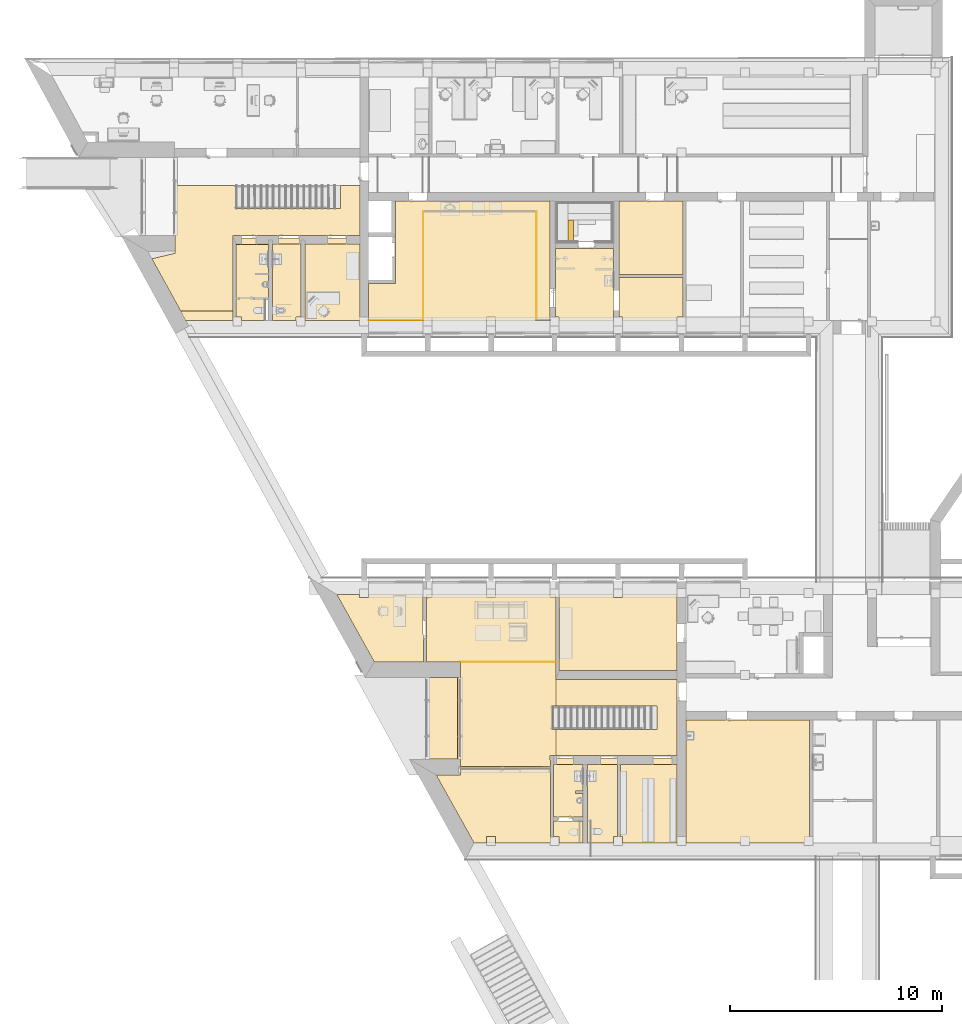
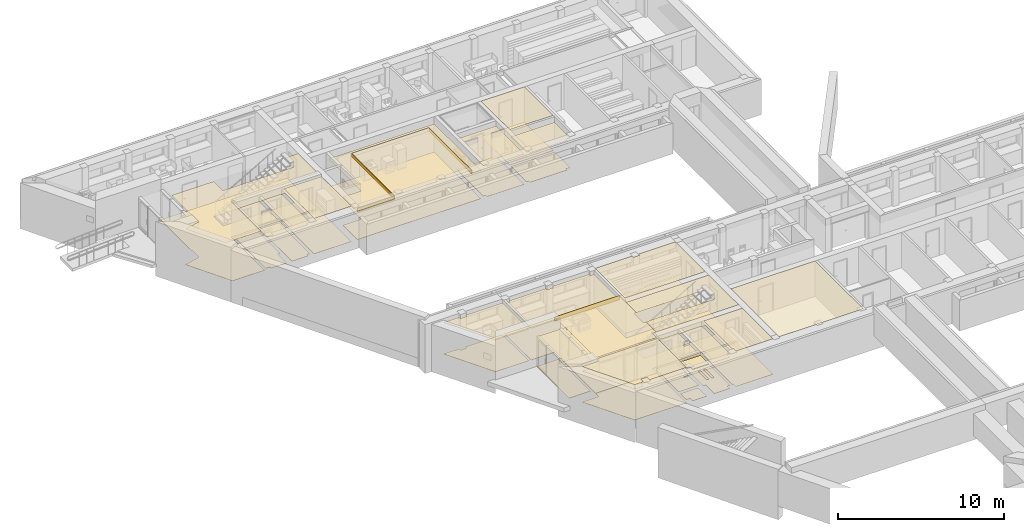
# One storey, part 68 of 127: 46 coverings, 2 openings.
"""IFC2X3 building model written with IfcOpenShell, lengths in millimetres."""

import ifcopenshell
import ifcopenshell.guid

model = None  # the IFC model being written
_history = None  # IfcOwnerHistory: only IFC2X3 demands one
_inside = {}  # id of a spatial element -> (the spatial element, [elements in it])
_under = {}  # id of a project, library or spatial element -> (it, [spatial elements below it])
_declared = {}  # id of a project -> (the project, [libraries it declares])
_typed = {}  # id of a type object -> (the type object, [elements of that type])
_made_of = {}  # id of a material, layer set ... -> (it, [elements and type objects made of it])


def new_model(schema):
    """Start an empty IFC model of exactly this schema.

    Asked for "IFC4X3", IfcOpenShell would pick the latest addendum, in which some entities
    have other attributes; the version numbers below select the first issue.
    IFC2X3 requires an IfcOwnerHistory on every rooted entity: one is made here for all.
    """
    global model, _history
    if schema == "IFC4X3":
        model = ifcopenshell.file(schema_version=(4, 3, 0, 0))
    else:
        model = ifcopenshell.file(schema=schema)
    _inside.clear()
    _under.clear()
    _declared.clear()
    _typed.clear()
    _made_of.clear()
    _history = None
    if model.schema == "IFC2X3":
        org = make("IfcOrganization", Name="unknown")
        user = make(
            "IfcPersonAndOrganization",
            ThePerson=make("IfcPerson", FamilyName="unknown"),
            TheOrganization=org,
        )
        app = make(
            "IfcApplication",
            ApplicationDeveloper=org,
            Version="unknown",
            ApplicationFullName="unknown",
            ApplicationIdentifier="unknown",
        )
        _history = make(
            "IfcOwnerHistory",
            OwningUser=user,
            OwningApplication=app,
            ChangeAction="ADDED",
            CreationDate=0,
        )
    return model


def make(cls, **values):
    """One entity of the class cls with the attributes given. An attribute that is None is left unset."""
    return model.create_entity(
        cls, **{name: value for name, value in values.items() if value is not None}
    )


def entity(cls, *values):
    """Any entity or typed value of the class cls, its attributes in the order of the schema. None: left unset."""
    e = model.create_entity(cls)
    for i, value in enumerate(values):
        if value is not None:
            e[i] = value
    return e


def rooted(cls, **values):
    """An entity with a GlobalId (a new one), such as an element, a storey or a relation."""
    return make(cls, GlobalId=ifcopenshell.guid.new(), OwnerHistory=_history, **values)


def si_unit(unit_type, name, prefix=None):
    """IfcSIUnit, for example si_unit("LENGTHUNIT", "METRE", prefix="MILLI")."""
    return make("IfcSIUnit", UnitType=unit_type, Prefix=prefix, Name=name)


def converted_unit(unit_type, name, factor, base, dimensions=None, offset=None):
    """IfcConversionBasedUnit, such as the inch: factor (a typed value) times the base unit."""
    return make(
        "IfcConversionBasedUnit"
        if offset is None
        else "IfcConversionBasedUnitWithOffset",
        ConversionOffset=offset,
        Dimensions=None
        if dimensions is None
        else entity("IfcDimensionalExponents", *dimensions),
        UnitType=unit_type,
        Name=name,
        ConversionFactor=make(
            "IfcMeasureWithUnit", ValueComponent=factor, UnitComponent=base
        ),
    )


def derived_unit(unit_type, elements):
    """IfcDerivedUnit: a product of units, each with its exponent."""
    return make(
        "IfcDerivedUnit",
        Elements=[
            make("IfcDerivedUnitElement", Unit=unit, Exponent=power)
            for unit, power in elements
        ],
        UnitType=unit_type,
    )


def money_unit(currency):
    """IfcMonetaryUnit."""
    return make("IfcMonetaryUnit", Currency=currency)


def assignment(units):
    """IfcUnitAssignment: the units of a project."""
    return None if units is None else make("IfcUnitAssignment", Units=units)


def point(xyz):
    """IfcCartesianPoint."""
    return None if xyz is None else make("IfcCartesianPoint", Coordinates=xyz)


def direction(xyz):
    """IfcDirection."""
    return None if xyz is None else make("IfcDirection", DirectionRatios=xyz)


def frame(location, z_axis=None, x_axis=None):
    """IfcAxis2Placement3D, a coordinate frame: its origin and axes. An axis left out is left unset."""
    return make(
        "IfcAxis2Placement3D",
        Location=point(location),
        Axis=direction(z_axis),
        RefDirection=direction(x_axis),
    )


def origin_with_axes():
    """The frame at (0, 0, 0) with the z axis (0, 0, 1) and the x axis (1, 0, 0) written out."""
    return frame((0.0, 0.0, 0.0), z_axis=(0.0, 0.0, 1.0), x_axis=(1.0, 0.0, 0.0))


def place(relative_to, where):
    """IfcLocalPlacement: puts the frame where relative to a parent placement (None: the world)."""
    return make(
        "IfcLocalPlacement", PlacementRelTo=relative_to, RelativePlacement=where
    )


def context(
    kind, dimensions, precision=None, world=None, true_north=None, identifier=None
):
    """IfcGeometricRepresentationContext, for example the 3D "Model" context."""
    return make(
        "IfcGeometricRepresentationContext",
        ContextIdentifier=identifier,
        ContextType=kind,
        CoordinateSpaceDimension=dimensions,
        Precision=precision,
        WorldCoordinateSystem=world,
        TrueNorth=true_north,
    )


def subcontext(parent, identifier, kind, view, scale=None):
    """IfcGeometricRepresentationSubContext, for example "Body" below "Model"."""
    return make(
        "IfcGeometricRepresentationSubContext",
        ContextIdentifier=identifier,
        ContextType=kind,
        ParentContext=parent,
        TargetScale=scale,
        TargetView=view,
    )


def project(units=None, contexts=None):
    """IfcProject with its units and contexts."""
    return rooted(
        "IfcProject",
        Name="project",
        RepresentationContexts=contexts,
        UnitsInContext=assignment(units),
    )


def spatial(cls, under=None, at=None, **own):
    """A site, building, storey or space (cls), placed at a placement, below another one or the project."""
    s = rooted(cls, ObjectPlacement=at, **own)
    if under is not None:
        _under.setdefault(under.id(), (under, []))[1].append(s)
    return s


def polyline(points):
    """IfcPolyline through the points."""
    return make("IfcPolyline", Points=[point(p) for p in points])


def outline(outer, holes=None, kind="AREA"):
    """IfcArbitraryClosedProfileDef: a profile drawn as a closed curve; with holes, ...WithVoids."""
    if holes is None:
        return make("IfcArbitraryClosedProfileDef", ProfileType=kind, OuterCurve=outer)
    return make(
        "IfcArbitraryProfileDefWithVoids",
        ProfileType=kind,
        OuterCurve=outer,
        InnerCurves=holes,
    )


def extrude(swept, where, along, depth):
    """IfcExtrudedAreaSolid: the profile swept, set in the frame where, extruded along a direction by depth."""
    return make(
        "IfcExtrudedAreaSolid",
        SweptArea=swept,
        Position=where,
        ExtrudedDirection=direction(along),
        Depth=depth,
    )


def shape(context_of_items, identifier, shape_type, items):
    """IfcShapeRepresentation: the items that make up one representation, for example the "Body"."""
    return make(
        "IfcShapeRepresentation",
        ContextOfItems=context_of_items,
        RepresentationIdentifier=identifier,
        RepresentationType=shape_type,
        Items=items,
    )


def material(Name=None, Category=None):
    """IfcMaterial."""
    return make("IfcMaterial", Name=Name, Category=Category)


def made_of(thing, what):
    """Note that an element or type object is made of a material, layer set ...; save() writes the relation."""
    if what is not None:
        _made_of.setdefault(what.id(), (what, []))[1].append(thing)
    return thing


def type_object(cls, material=None, **own):
    """A type object (cls), such as IfcWallType, which elements share."""
    return made_of(rooted(cls, **own), material)


def element(
    cls,
    number,
    at=None,
    inside=None,
    cuts=None,
    type_object=None,
    material=None,
    context=None,
    identifier="Body",
    shape_type=None,
    held_by="IfcProductDefinitionShape",
    body=None,
    shapes=None,
    **own,
):
    """One element of the class cls, such as IfcWall. Its Tag is "e" and its number.

    at: its placement. inside: the storey or other place that contains it. cuts: it is an
    opening in that element (IfcRelVoidsElement). A single representation is given by context,
    identifier, shape_type and body (its items); several are given by shapes. held_by: the class
    of the entity that holds the representations. save() writes the other relations.
    """
    e = rooted(cls, Tag="e%d" % number, ObjectPlacement=at, **own)
    if body is not None:
        shapes = [shape(context, identifier, shape_type, body)]
    if shapes is not None:
        e.Representation = make(held_by, Representations=shapes)
    if inside is not None:
        _inside.setdefault(inside.id(), (inside, []))[1].append(e)
    if cuts is not None:
        rooted(
            "IfcRelVoidsElement", RelatingBuildingElement=cuts, RelatedOpeningElement=e
        )
    if type_object is not None:
        _typed.setdefault(type_object.id(), (type_object, []))[1].append(e)
    return made_of(e, material)


def aggregate(whole, parts):
    """IfcRelAggregates: a whole, such as a stair, and the parts it consists of."""
    return rooted("IfcRelAggregates", RelatingObject=whole, RelatedObjects=parts)


def save(model, path):
    """Write the relations noted so far, then the file.

    IfcRelAggregates (storeys below a building ...), IfcRelContainedInSpatialStructure (elements
    in a storey), IfcRelDefinesByType, IfcRelAssociatesMaterial and IfcRelDeclares: one each for
    every whole, place, type object, material and project.
    """
    for whole, parts in _under.values():
        aggregate(whole, parts)
    for where, things in _inside.values():
        rooted(
            "IfcRelContainedInSpatialStructure",
            RelatedElements=things,
            RelatingStructure=where,
        )
    for kind, things in _typed.values():
        rooted("IfcRelDefinesByType", RelatedObjects=things, RelatingType=kind)
    for what, things in _made_of.values():
        rooted("IfcRelAssociatesMaterial", RelatedObjects=things, RelatingMaterial=what)
    for by, libraries in _declared.values():
        rooted("IfcRelDeclares", RelatingContext=by, RelatedDefinitions=libraries)
    model.write(path)


model = new_model("IFC2X3")

# Units and contexts
model_context = context("Model", 3, precision=1e-05, world=origin_with_axes(), true_north=direction((0.0, 1.0)))
body_context = subcontext(model_context, "Body", "Model", "MODEL_VIEW")
ifc_project = project(units=[si_unit("LENGTHUNIT", "METRE", prefix="MILLI"), si_unit("AREAUNIT", "SQUARE_METRE"), si_unit("VOLUMEUNIT", "CUBIC_METRE"), converted_unit("PLANEANGLEUNIT", "DEGREE", entity("IfcPlaneAngleMeasure", 0.0174532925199), si_unit("PLANEANGLEUNIT", "RADIAN"), dimensions=[0, 0, 0, 0, 0, 0, 0]), si_unit("SOLIDANGLEUNIT", "STERADIAN"), money_unit("EUR"), converted_unit("TIMEUNIT", "Year", entity("IfcTimeMeasure", 31556926.0), si_unit("TIMEUNIT", "SECOND"), dimensions=[0, 0, 1, 0, 0, 0, 0]), si_unit("MASSUNIT", "GRAM", prefix="KILO"), si_unit("THERMODYNAMICTEMPERATUREUNIT", "DEGREE_CELSIUS"), si_unit("LUMINOUSINTENSITYUNIT", "LUMEN"), si_unit("ENERGYUNIT", "JOULE", prefix="MEGA"), derived_unit("THERMALCONDUCTANCEUNIT", [(si_unit("POWERUNIT", "WATT"), 1), (si_unit("LENGTHUNIT", "METRE"), -1), (si_unit("THERMODYNAMICTEMPERATUREUNIT", "KELVIN"), -1)]), derived_unit("SPECIFICHEATCAPACITYUNIT", [(si_unit("ENERGYUNIT", "JOULE"), 1), (si_unit("MASSUNIT", "GRAM", prefix="KILO"), -1), (si_unit("THERMODYNAMICTEMPERATUREUNIT", "KELVIN"), -1)]), derived_unit("MASSDENSITYUNIT", [(si_unit("MASSUNIT", "GRAM", prefix="KILO"), 1), (si_unit("VOLUMEUNIT", "CUBIC_METRE"), -1)])], contexts=[model_context])

# Site, building, storey
site_placement = place(None, origin_with_axes())
site = spatial("IfcSite", under=ifc_project, at=site_placement, Name="Site", CompositionType="ELEMENT")
building_placement = place(site_placement, origin_with_axes())
building = spatial("IfcBuilding", under=site, at=building_placement, Name="Building", CompositionType="ELEMENT")
storey_placement = place(building_placement, origin_with_axes())
storey = spatial("IfcBuildingStorey", under=building, at=storey_placement, Name="1 KORRUS", CompositionType="ELEMENT", Elevation=0.0)

# Coverings
ifc_material_1 = material(Name="Värv")
covering_type_1 = type_object("IfcCoveringType", Name="L-3", PredefinedType="CLADDING")
covering_1_placement = place(storey_placement, frame((5851.14946639, 62850.3507317, 2600.0), z_axis=(0.0, 0.0, 1.0), x_axis=(1.0, 0.0, 0.0)))
element("IfcCovering", 1, at=covering_1_placement, inside=storey, type_object=covering_type_1, material=ifc_material_1, Name="Konstruktiivne lagi lauspahtel, värvitud", PredefinedType="CLADDING", context=body_context, shape_type="SweptSolid", body=[
    extrude(outline(polyline([(1153.86633796, -93.2635375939), (57.8203642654, -352.383152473), (1418.12103256, -2823.11464741), (3882.35909359, -2822.83354766), (3882.35909359, 753.439730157), (9886.93268265, 753.439730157), (9886.93268265, 3111.01354445), (8969.71786792, 3111.01354445), (8969.71786792, 2014.76514358), (4016.69163021, 2014.76514358), (4016.69163021, 3111.01354445), (1094.10376293, 3111.01354445), (1094.10376293, 740.751346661), (1153.35835474, 740.792008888), (1153.86633796, -93.2635375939)])), frame((0.0, 0.0, -1.0), z_axis=(0.0, 0.0, 1.0), x_axis=(1.0, 0.0, 0.0)), (0.0, 0.0, 1.0), 1.0),
])
covering_2_placement = place(storey_placement, frame((19343.4294019, 38098.7169957, 2600.0), z_axis=(0.0, 0.0, 1.0), x_axis=(1.0, 0.0, 0.0)))
element("IfcCovering", 2, at=covering_2_placement, inside=storey, type_object=covering_type_1, material=ifc_material_1, Name="Konstruktiivne lagi lauspahtel, värvitud", PredefinedType="CLADDING", context=body_context, shape_type="SweptSolid", body=[
    extrude(outline(polyline([(0.0, 0.0), (1789.98376424, -3211.59299472), (2386.14115667, -3211.55241067), (2391.74491577, -2917.09272586), (2811.74491577, -2917.09272586), (2811.74491577, -3211.52342982), (5401.71087803, -3211.34709215), (5397.44577635, 291.277355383), (1156.79316547, 286.113562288), (1157.15352744, 1.46487102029), (0.0, 0.0)])), frame((0.0, 0.0, -1.0), z_axis=(0.0, 0.0, 1.0), x_axis=(1.0, 0.0, 0.0)), (0.0, 0.0, 1.0), 1.0),
])
covering_3_placement = place(storey_placement, frame((13154.6418932, 59586.285356, 2600.0), z_axis=(0.0, 0.0, 1.0), x_axis=(1.0, 0.0, 0.0)))
element("IfcCovering", 3, at=covering_3_placement, inside=storey, type_object=covering_type_1, material=ifc_material_1, Name="Konstruktiivne lagi lauspahtel, värvitud", PredefinedType="CLADDING", context=body_context, shape_type="SweptSolid", body=[
    extrude(outline(polyline([(0.0, 0.0), (2584.23566259, 0.294428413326), (2582.11079248, 3597.5050327), (-1.51719712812, 3597.5050327), (0.0, 0.0)])), frame((0.0, 0.0, -1.0), z_axis=(0.0, 0.0, 1.0), x_axis=(1.0, 0.0, 0.0)), (0.0, 0.0, 1.0), 1.0),
])
covering_4_placement = place(storey_placement, frame((20495.7599636, 43426.5044804, 2600.0), z_axis=(0.0, 0.0, 1.0), x_axis=(1.0, 0.0, 0.0)))
element("IfcCovering", 4, at=covering_4_placement, inside=storey, type_object=covering_type_1, material=ifc_material_1, Name="Konstruktiivne lagi lauspahtel, värvitud", PredefinedType="CLADDING", context=body_context, shape_type="SweptSolid", body=[
    extrude(outline(polyline([(0.0, 0.0), (4.77219306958, -103.171729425), (4.84053943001, -4936.51022946), (4244.99350342, -4936.51022946), (4244.36374053, -4419.35727314), (4507.85070635, -4419.04127192), (4507.85070635, -3179.58391819), (4350.02095857, -3179.70975555), (4349.1438978, -2079.7100232), (4507.85070635, -2079.58349148), (4507.85070635, 0.121741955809), (0.0, 0.0)])), frame((0.0, 0.0, -1.0), z_axis=(0.0, 0.0, 1.0), x_axis=(1.0, 0.0, 0.0)), (0.0, 0.0, 1.0), 1.0),
])
covering_5_placement = place(storey_placement, frame((25003.6106699, 39007.4632085, 2600.0), z_axis=(0.0, 0.0, 1.0), x_axis=(1.0, 0.0, 0.0)))
element("IfcCovering", 5, at=covering_5_placement, inside=storey, type_object=covering_type_1, material=ifc_material_1, Name="Konstruktiivne lagi lauspahtel, värvitud", PredefinedType="CLADDING", context=body_context, shape_type="SweptSolid", body=[
    extrude(outline(polyline([(0.0, 0.0), (5729.444285, 6.87131311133), (5730.18996588, 3595.41225715), (0.0, 3595.41225715), (0.0, 2339.45776019), (4771.29174504, 2343.26181708), (4772.16866507, 1243.2622109), (0.0, 1239.45738552), (0.0, 0.0)])), frame((0.0, 0.0, -1.0), z_axis=(0.0, 0.0, 1.0), x_axis=(1.0, 0.0, 0.0)), (0.0, 0.0, 1.0), 1.0),
])
covering_type_2 = type_object("IfcCoveringType", Name="L-5", PredefinedType="CLADDING")
covering_6_placement = place(storey_placement, frame((31153.8006358, 34888.204697, 2600.0), z_axis=(0.0, 0.0, 1.0), x_axis=(1.0, 0.0, 0.0)))
element("IfcCovering", 6, at=covering_6_placement, inside=storey, type_object=covering_type_2, material=ifc_material_1, Name="Konstruktiivne lagi kaetud tolmutõkkega ja värvitud", PredefinedType="CLADDING", context=body_context, shape_type="SweptSolid", body=[
    extrude(outline(polyline([(0.0, 0.0), (5850.5286353, 0.0), (5850.5286353, 5802.9638217), (0.0, 5802.9638217), (0.0, 0.0)])), frame((0.0, 0.0, -1.0), z_axis=(0.0, 0.0, 1.0), x_axis=(1.0, 0.0, 0.0)), (0.0, 0.0, 1.0), 1.0),
])
covering_7_placement = place(storey_placement, frame((27984.7274585, 61762.6000839, 2600.0), z_axis=(0.0, 0.0, 1.0), x_axis=(1.0, 0.0, 0.0)))
element("IfcCovering", 7, at=covering_7_placement, inside=storey, type_object=covering_type_2, material=ifc_material_1, Name="Konstruktiivne lagi kaetud tolmutõkkega ja värvitud", PredefinedType="CLADDING", context=body_context, shape_type="SweptSolid", body=[
    extrude(outline(polyline([(0.0, 0.0), (3019.95090035, 0.0), (3019.95090035, 3453.76897214), (0.0, 3453.76897214), (0.0, 0.0)])), frame((0.0, 0.0, -1.0), z_axis=(0.0, 0.0, 1.0), x_axis=(1.0, 0.0, 0.0)), (0.0, 0.0, 1.0), 1.0),
])
covering_8_placement = place(storey_placement, frame((25153.610629, 43023.5349234, 2600.0), z_axis=(0.0, 0.0, 1.0), x_axis=(1.0, 0.0, 0.0)))
element("IfcCovering", 8, at=covering_8_placement, inside=storey, type_object=covering_type_2, material=ifc_material_1, Name="Konstruktiivne lagi kaetud tolmutõkkega ja värvitud", PredefinedType="CLADDING", context=body_context, shape_type="SweptSolid", body=[
    extrude(outline(polyline([(0.0, 0.0), (5580.19000682, 0.0), (5580.19000682, 3596.19392041), (3000.55203849, 3596.08930703), (3000.71870821, 3451.99983472), (2580.71870821, 3451.99983472), (2579.99992018, 3596.19392041), (0.0, 3596.19392041), (0.0, 0.0)])), frame((0.0, 0.0, -1.0), z_axis=(0.0, 0.0, 1.0), x_axis=(1.0, 0.0, 0.0)), (0.0, 0.0, 1.0), 1.0),
])
covering_9_placement = place(storey_placement, frame((28070.4892316, 38590.9503687, 2600.0), z_axis=(0.0, 0.0, 1.0), x_axis=(1.0, 0.0, 0.0)))
element("IfcCovering", 9, at=covering_9_placement, inside=storey, type_object=covering_type_2, material=ifc_material_1, Name="Konstruktiivne lagi kaetud tolmutõkkega ja värvitud", PredefinedType="CLADDING", context=body_context, shape_type="SweptSolid", body=[
    extrude(outline(polyline([(0.0, 0.0), (0.0, -3411.25539502), (84.6850763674, -3409.32609872), (83.9069785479, -3703.34829473), (2663.31140441, -3703.33118761), (2663.31140441, 0.0), (0.0, 0.0)])), frame((0.0, 0.0, -1.0), z_axis=(0.0, 0.0, 1.0), x_axis=(1.0, 0.0, 0.0)), (0.0, 0.0, 1.0), 1.0),
])
covering_10_placement = place(storey_placement, frame((18937.1111308, 38837.6220292, 2170.0), z_axis=(0.0, 0.0, 1.0), x_axis=(1.0, 0.0, 0.0)))
element("IfcCovering", 10, at=covering_10_placement, inside=storey, type_object=covering_type_2, material=ifc_material_1, Name="Konstruktiivne lagi kaetud tolmutõkkega ja värvitud", PredefinedType="CLADDING", context=body_context, shape_type="SweptSolid", body=[
    extrude(outline(polyline([(0.0, 0.0), (1508.79923896, 0.0), (1508.79923896, 3865.42175298), (0.0, 3865.42175298), (0.0, 0.0)])), frame((0.0, 0.0, -1.0), z_axis=(0.0, 0.0, 1.0), x_axis=(1.0, 0.0, 0.0)), (0.0, 0.0, 1.0), 1.0),
])
ifc_material_2 = material(Name="Betoon - Ol.Olev konstruktsioon")
covering_type_3 = type_object("IfcCoveringType", Name="P-3", PredefinedType="NOTDEFINED")
covering_11_placement = place(storey_placement, frame((25153.610629, 46619.7288547, 0.0), z_axis=(0.0, 0.0, 1.0), x_axis=(1.0, 0.0, 0.0)))
element("IfcCovering", 11, at=covering_11_placement, inside=storey, type_object=covering_type_3, material=ifc_material_2, Name="Betoon - Ol.Olev konstruktsioon", PredefinedType="NOTDEFINED", context=body_context, shape_type="SweptSolid", body=[
    extrude(outline(polyline([(0.0, 0.0), (0.0, -3596.19393132), (5580.19000682, -3596.19393132), (5580.19000682, 0.0), (3000.55200322, -0.104604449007), (3000.71872176, -144.194072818), (2580.71872221, -144.194072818), (2579.9999616, 0.0), (0.0, 0.0)])), frame((0.0, 0.0, -20.0), z_axis=(0.0, 0.0, 1.0), x_axis=(1.0, 0.0, 0.0)), (0.0, 0.0, 1.0), 20.0),
])
covering_12_placement = place(storey_placement, frame((28070.4892316, 35179.6949493, 0.0), z_axis=(0.0, 0.0, 1.0), x_axis=(1.0, 0.0, 0.0)))
element("IfcCovering", 12, at=covering_12_placement, inside=storey, type_object=covering_type_3, material=ifc_material_2, Name="Betoon - Ol.Olev konstruktsioon", PredefinedType="NOTDEFINED", context=body_context, shape_type="SweptSolid", body=[
    extrude(outline(polyline([(0.0, 0.0), (84.6850581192, 1.9293004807), (83.9069615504, -292.092875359), (2663.31139032, -292.07577237), (2663.31140423, 3707.07439411), (0.0, 3707.07439411), (0.0, 0.0)])), frame((0.0, 0.0, -20.0), z_axis=(0.0, 0.0, 1.0), x_axis=(1.0, 0.0, 0.0)), (0.0, 0.0, 1.0), 20.0),
])
ifc_material_3 = material(Name="Puit - Konstruktsioon (1)")
covering_13_placement = place(storey_placement, frame((25577.9518775, 63313.5217144, 0.0), z_axis=(0.0, 0.0, 1.0), x_axis=(1.0, 0.0, 0.0)))
element("IfcCovering", 13, at=covering_13_placement, inside=storey, type_object=covering_type_3, material=ifc_material_3, Name="Puit - Konstruktsioon (1)", PredefinedType="NOTDEFINED", context=body_context, shape_type="SweptSolid", body=[
    extrude(outline(polyline([(0.0, 0.0), (250.0, 0.0), (250.0, 1015.84734281), (0.0, 1015.84734281), (0.0, 0.0)])), origin_with_axes(), (0.0, 0.0, 1.0), 500.0),
])
ifc_material_4 = material(Name="Kipsplaat")
covering_type_4 = type_object("IfcCoveringType", Name="L-2", PredefinedType="CEILING")
covering_14_placement = place(storey_placement, frame((26290.4091066, 38589.0062013, 2300.0), z_axis=(0.0, 0.0, 1.0), x_axis=(1.0, 0.0, 0.0)))
element("IfcCovering", 14, at=covering_14_placement, inside=storey, type_object=covering_type_4, material=ifc_material_4, Name="Kahekordne niiskuskindlast kipsplaadist ripplag", PredefinedType="CEILING", context=body_context, shape_type="SweptSolid", body=[
    extrude(outline(polyline([(0.0, 0.0), (-1399.77410612, -1.67872438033), (-1396.76342501, -2474.14206211), (3.01274683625, -2474.14206211), (1.65448895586, -1358.68987821), (-357.274298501, -1358.68987821), (-357.274298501, -1258.68990259), (1.53268865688, -1258.68990259), (0.0, 0.0)])), origin_with_axes(), (0.0, 0.0, 1.0), 26.0),
])
covering_15_placement = place(storey_placement, frame((9882.31998867, 59732.9664259, 2300.0), z_axis=(0.0, 0.0, 1.0), x_axis=(1.0, 0.0, 0.0)))
element("IfcCovering", 15, at=covering_15_placement, inside=storey, type_object=covering_type_4, material=ifc_material_4, Name="Kahekordne niiskuskindlast kipsplaadist ripplag", PredefinedType="CEILING", context=body_context, shape_type="SweptSolid", body=[
    extrude(outline(polyline([(0.0, 0.0), (270.0, 2.15670983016), (271.19162187, -147.023258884), (1532.35207692, -146.879461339), (1532.35207692, 3444.76877293), (0.0, 3444.76877293), (0.0, 0.0)])), frame((0.0, 0.0, -26.0), z_axis=(0.0, 0.0, 1.0), x_axis=(1.0, 0.0, 0.0)), (0.0, 0.0, 1.0), 26.0),
])
covering_16_placement = place(storey_placement, frame((11614.6720656, 59586.1439337, 2300.0), z_axis=(0.0, 0.0, 1.0), x_axis=(1.0, 0.0, 0.0)))
element("IfcCovering", 16, at=covering_16_placement, inside=storey, type_object=covering_type_4, material=ifc_material_4, Name="Kahekordne niiskuskindlast kipsplaadist ripplag", PredefinedType="CEILING", context=body_context, shape_type="SweptSolid", body=[
    extrude(outline(polyline([(0.0, 0.0), (1118.30566808, 0.0933379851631), (1117.98582585, 148.979188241), (1339.96981462, 149.456113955), (1341.46288173, 3597.64645495), (0.0, 3597.64645495), (0.0, 0.0)])), frame((0.0, 0.0, -26.0), z_axis=(0.0, 0.0, 1.0), x_axis=(1.0, 0.0, 0.0)), (0.0, 0.0, 1.0), 26.0),
])
covering_17_placement = place(storey_placement, frame((24988.1366535, 59737.7478417, 2200.0), z_axis=(0.0, 0.0, 1.0), x_axis=(1.0, 0.0, 0.0)))
element("IfcCovering", 17, at=covering_17_placement, inside=storey, type_object=covering_type_4, material=ifc_material_4, Name="Kahekordne niiskuskindlast kipsplaadist ripplag", PredefinedType="CEILING", context=body_context, shape_type="SweptSolid", body=[
    extrude(outline(polyline([(0.0, 0.0), (166.165943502, -0.0666203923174), (166.590824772, -150.094461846), (2746.59082074, -149.773718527), (2746.59082074, 3243.13456081), (0.0, 3243.13456081), (0.0, 0.0)])), origin_with_axes(), (0.0, 0.0, 1.0), 26.0),
])
covering_18_placement = place(storey_placement, frame((27988.4542979, 59738.0859589, 2150.0), z_axis=(0.0, 0.0, 1.0), x_axis=(1.0, 0.0, 0.0)))
element("IfcCovering", 18, at=covering_18_placement, inside=storey, type_object=covering_type_4, material=ifc_material_4, Name="Kahekordne niiskuskindlast kipsplaadist ripplag", PredefinedType="CEILING", context=body_context, shape_type="SweptSolid", body=[
    extrude(outline(polyline([(0.0, 0.0), (165.847887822, 0.0186913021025), (165.921546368, -150.090559), (2745.9215296, -149.796387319), (2745.84747648, 0.382840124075), (3016.2240671, 0.339932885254), (3016.2240671, 1874.51412508), (-3.72683933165, 1874.51412508), (0.0, 0.0)])), origin_with_axes(), (0.0, 0.0, 1.0), 26.0),
])
covering_19_placement = place(storey_placement, frame((26293.6653971, 35914.8641392, 2300.0), z_axis=(0.0, 0.0, 1.0), x_axis=(1.0, 0.0, 0.0)))
element("IfcCovering", 19, at=covering_19_placement, inside=storey, type_object=covering_type_4, material=ifc_material_4, Name="Kahekordne niiskuskindlast kipsplaadist ripplag", PredefinedType="CEILING", context=body_context, shape_type="SweptSolid", body=[
    extrude(outline(polyline([(0.0, 0.0), (-1400.75070082, 0.0), (-1399.85745533, -733.558132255), (-1138.49107942, -733.239869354), (-1138.13280322, -1027.46626679), (1.25103047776, -1027.38867523), (0.0, 0.0)])), origin_with_axes(), (0.0, 0.0, 1.0), 26.0),
])
covering_20_placement = place(storey_placement, frame((26490.6545799, 34887.602074, 2300.0), z_axis=(0.0, 0.0, 1.0), x_axis=(1.0, 0.0, 0.0)))
element("IfcCovering", 20, at=covering_20_placement, inside=storey, type_object=covering_type_4, material=ifc_material_4, Name="Kahekordne niiskuskindlast kipsplaadist ripplag", PredefinedType="CEILING", context=body_context, shape_type="SweptSolid", body=[
    extrude(outline(polyline([(0.0, 0.0), (1243.16625827, -0.0286384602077), (1244.51973779, 294.022195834), (1429.83465168, 293.169214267), (1429.83465168, 3701.64398543), (0.0, 3701.64398543), (0.0, 0.0)])), frame((0.0, 0.0, -26.0), z_axis=(0.0, 0.0, 1.0), x_axis=(1.0, 0.0, 0.0)), (0.0, 0.0, 1.0), 26.0),
])
covering_type_5 = type_object("IfcCoveringType", Name="P-5", PredefinedType="NOTDEFINED")
covering_21_placement = place(storey_placement, frame((31004.678365, 61612.6000747, 0.0), z_axis=(0.0, 0.0, 1.0), x_axis=(1.0, 0.0, 0.0)))
element("IfcCovering", 21, at=covering_21_placement, inside=storey, type_object=covering_type_5, material=ifc_material_2, Name="Betoon - Ol.Olev konstruktsioon", PredefinedType="NOTDEFINED", context=body_context, shape_type="SweptSolid", body=[
    extrude(outline(polyline([(0.0, 0.0), (-3019.95090643, 0.0), (-3016.22407367, -1874.51412098), (-2850.37616835, -1874.49544563), (-2850.30250201, -2024.60467481), (-270.302544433, -2024.31050446), (-270.376570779, -1874.13125402), (0.0, -1874.17418479), (0.0, 0.0)])), frame((0.0, 0.0, -20.0), z_axis=(0.0, 0.0, 1.0), x_axis=(1.0, 0.0, 0.0)), (0.0, 0.0, 1.0), 20.0),
])
covering_22_placement = place(storey_placement, frame((27920.4892329, 38898.3088444, 0.0), z_axis=(0.0, 0.0, 1.0), x_axis=(1.0, 0.0, 0.0)))
element("IfcCovering", 22, at=covering_22_placement, inside=storey, type_object=covering_type_5, material=ifc_material_2, Name="Betoon - Ol.Olev konstruktsioon", PredefinedType="NOTDEFINED", context=body_context, shape_type="SweptSolid", body=[
    extrude(outline(polyline([(0.0, 0.0), (-1430.45447676, -1.7418402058), (-1426.83952513, -2970.44470521), (-1263.93001079, -2970.44470521), (-1263.93001079, -4011.0182667), (-186.668376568, -4010.73539317), (-185.314917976, -3716.68456374), (0.0, -3717.53757246), (0.0, 0.0)])), frame((0.0, 0.0, -20.0), z_axis=(0.0, 0.0, 1.0), x_axis=(1.0, 0.0, 0.0)), (0.0, 0.0, 1.0), 20.0),
])
covering_23_placement = place(storey_placement, frame((26131.7490299, 35914.8641367, 0.0), z_axis=(0.0, 0.0, 1.0), x_axis=(1.0, 0.0, 0.0)))
element("IfcCovering", 23, at=covering_23_placement, inside=storey, type_object=covering_type_5, material=ifc_material_2, Name="Betoon - Ol.Olev konstruktsioon", PredefinedType="NOTDEFINED", context=body_context, shape_type="SweptSolid", body=[
    extrude(outline(polyline([(0.0, 0.0), (-1237.85980536, 0.0), (-1236.97059315, -730.241158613), (-976.57471513, -733.23986202), (-979.980957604, -1029.02518765), (1.25158398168, -1027.83035809), (0.0, 0.0)])), frame((0.0, 0.0, -20.0), z_axis=(0.0, 0.0, 1.0), x_axis=(1.0, 0.0, 0.0)), (0.0, 0.0, 1.0), 20.0),
])
covering_24_placement = place(storey_placement, frame((26290.0388348, 38893.0845477, 0.0), z_axis=(0.0, 0.0, 1.0), x_axis=(1.0, 0.0, 0.0)))
element("IfcCovering", 24, at=covering_24_placement, inside=storey, type_object=covering_type_5, material=ifc_material_2, Name="Betoon - Ol.Olev konstruktsioon", PredefinedType="NOTDEFINED", context=body_context, shape_type="SweptSolid", body=[
    extrude(outline(polyline([(0.0, 0.0), (-1399.77410587, -1.6787243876), (-1396.39315317, -2778.22040852), (3.38301868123, -2778.22040852), (2.02476080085, -1662.76822462), (-356.904026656, -1662.76822462), (-356.904026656, -1562.768249), (1.90296050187, -1562.768249), (0.0, 0.0)])), frame((0.0, 0.0, -20.0), z_axis=(0.0, 0.0, 1.0), x_axis=(1.0, 0.0, 0.0)), (0.0, 0.0, 1.0), 20.0),
])
covering_25_placement = place(storey_placement, frame((9882.31998867, 63483.0156154, 0.0), z_axis=(0.0, 0.0, 1.0), x_axis=(1.0, 0.0, 0.0)))
element("IfcCovering", 25, at=covering_25_placement, inside=storey, type_object=covering_type_5, material=ifc_material_2, Name="Betoon - Ol.Olev konstruktsioon", PredefinedType="NOTDEFINED", context=body_context, shape_type="SweptSolid", body=[
    extrude(outline(polyline([(0.0, 0.0), (0.0, -3750.04916982), (269.99997522, -3747.89247757), (271.191644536, -3897.07244844), (1371.33609182, -3896.94723616), (1371.21375134, -2822.03512084), (1534.33609084, -2822.03512084), (1531.90779287, 0.0), (0.0, 0.0)])), frame((0.0, 0.0, -20.0), z_axis=(0.0, 0.0, 1.0), x_axis=(1.0, 0.0, 0.0)), (0.0, 0.0, 1.0), 20.0),
])
covering_26_placement = place(storey_placement, frame((12956.2669875, 63488.7800328, 0.0), z_axis=(0.0, 0.0, 1.0), x_axis=(1.0, 0.0, 0.0)))
element("IfcCovering", 26, at=covering_26_placement, inside=storey, type_object=covering_type_5, material=ifc_material_2, Name="Betoon - Ol.Olev konstruktsioon", PredefinedType="NOTDEFINED", context=body_context, shape_type="SweptSolid", body=[
    extrude(outline(polyline([(0.0, 0.0), (-1341.5949219, 0.0), (-1341.5949219, -3902.63609905), (-223.289230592, -3902.54275591), (-223.609105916, -3753.65691249), (-1.62510168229, -3753.17997082), (0.0, 0.0)])), frame((0.0, 0.0, -20.0), z_axis=(0.0, 0.0, 1.0), x_axis=(1.0, 0.0, 0.0)), (0.0, 0.0, 1.0), 20.0),
])
covering_27_placement = place(storey_placement, frame((24988.1366535, 62980.8824025, 0.0), z_axis=(0.0, 0.0, 1.0), x_axis=(1.0, 0.0, 0.0)))
element("IfcCovering", 27, at=covering_27_placement, inside=storey, type_object=covering_type_5, material=ifc_material_2, Name="Betoon - Ol.Olev konstruktsioon", PredefinedType="NOTDEFINED", context=body_context, shape_type="SweptSolid", body=[
    extrude(outline(polyline([(0.0, 0.0), (0.0, -3243.13458141), (166.165922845, -3243.20117301), (166.590804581, -3393.22902265), (2746.59082391, -3392.9083009), (2746.59082391, 0.0), (0.0, 0.0)])), frame((0.0, 0.0, -20.0), z_axis=(0.0, 0.0, 1.0), x_axis=(1.0, 0.0, 0.0)), (0.0, 0.0, 1.0), 20.0),
])
covering_type_6 = type_object("IfcCoveringType", Name="L-3", PredefinedType="CEILING")
covering_28_placement = place(storey_placement, frame((18884.6676013, 46471.7140294, 2300.0), z_axis=(0.0, 0.0, 1.0), x_axis=(1.0, 0.0, 0.0)))
element("IfcCovering", 28, at=covering_28_placement, inside=storey, type_object=covering_type_6, material=ifc_material_4, Name="Ripplagi. Akustine kipsplaat", PredefinedType="CEILING", context=body_context, shape_type="SweptSolid", body=[
    extrude(outline(polyline([(0.0, 0.0), (3.72623035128, -3028.6249025), (1611.10130058, -3028.6249025), (1611.14196661, -3045.20734332), (6118.94309354, -3045.20734332), (6118.94309354, 0.739647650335), (5849.66174645, 0.61181406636), (5849.69876531, 149.525444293), (3269.6616843, 150.167256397), (3269.6616843, 0.61181406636), (2849.66171871, 0.61181406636), (2849.69873756, 149.507117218), (269.491698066, 150.149020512), (269.66174773, 0.611905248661), (0.0, 0.0)])), origin_with_axes(), (0.0, 0.0, 1.0), 20.0),
])
covering_type_7 = type_object("IfcCoveringType", Name="P-6", PredefinedType="NOTDEFINED")
covering_29_placement = place(storey_placement, frame((20500.5828952, 38100.1818068, 0.0), z_axis=(0.0, 0.0, 1.0), x_axis=(1.0, 0.0, 0.0)))
element("IfcCovering", 29, at=covering_29_placement, inside=storey, type_object=covering_type_7, material=ifc_material_2, Name="Betoon - Ol.Olev konstruktsioon", PredefinedType="NOTDEFINED", context=body_context, shape_type="SweptSolid", body=[
    extrude(outline(polyline([(0.0, 0.0), (-1157.15349333, -1.46475272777), (632.830337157, -3213.05781623), (4240.81028756, -3212.81213286), (4244.19906375, -2918.54589993), (4240.17051575, 389.812481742), (-0.486813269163, 384.648657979), (0.0, 0.0)])), frame((0.0, 0.0, -20.0), z_axis=(0.0, 0.0, 1.0), x_axis=(1.0, 0.0, 0.0)), (0.0, 0.0, 1.0), 20.0),
])
covering_30_placement = place(storey_placement, frame((20346.3322376, 42703.0850302, 0.0), z_axis=(0.0, 0.0, 1.0), x_axis=(1.0, 0.0, 0.0)))
element("IfcCovering", 30, at=covering_30_placement, inside=storey, type_object=covering_type_7, material=ifc_material_2, Name="Betoon - Ol.Olev konstruktsioon", PredefinedType="NOTDEFINED", context=body_context, shape_type="SweptSolid", body=[
    extrude(outline(polyline([(0.0, 0.0), (-1476.5706522, -0.0398177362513), (-1476.5706522, -3863.36817584), (-0.116114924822, -3862.9669911), (0.0, 0.0)])), frame((0.0, 0.0, -20.0), z_axis=(0.0, 0.0, 1.0), x_axis=(1.0, 0.0, 0.0)), (0.0, 0.0, 1.0), 20.0),
])

# Covering, opening
covering_31_placement = place(storey_placement, frame((18884.097553, 46621.9301419, 0.0), z_axis=(0.0, 0.0, 1.0), x_axis=(1.0, 0.0, 0.0)))
covering_31 = element("IfcCovering", 31, at=covering_31_placement, inside=storey, type_object=covering_type_7, material=ifc_material_2, Name="Betoon - Ol.Olev konstruktsioon", PredefinedType="NOTDEFINED", context=body_context, shape_type="SweptSolid", body=[
    extrude(outline(polyline([(0.0, 0.0), (4.92890070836, -3178.8843941), (1611.67124966, -3178.84113333), (1611.69049628, -3893.88417875), (1615.66554152, -3893.88417875), (1615.99838446, -8137.09964841), (5856.65581927, -8131.93590361), (5856.02615254, -7614.78294795), (11849.7030828, -7607.59465847), (11849.7030828, -4019.05466639), (6119.5131017, -4019.05466639), (6119.5131017, -1.52224880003), (0.0, 0.0)])), frame((0.0, 0.0, -20.0), z_axis=(0.0, 0.0, 1.0), x_axis=(1.0, 0.0, 0.0)), (0.0, 0.0, 1.0), 20.0),
])
opening_1_placement = place(covering_31_placement, origin_with_axes())
element("IfcOpeningElement", 32, at=opening_1_placement, cuts=covering_31, Name="Slab Opening", context=body_context, shape_type="SweptSolid", body=[
    extrude(outline(polyline([(5961.6833954, -6375.1353835), (10891.6818285, -6371.20475031), (10890.8048109, -5271.20509986), (5960.80637785, -5275.13573284), (5961.6833954, -6375.1353835)])), frame((0.0, 0.0, -20.0), z_axis=(0.0, 0.0, 1.0), x_axis=(1.0, 0.0, 0.0)), (0.0, 0.0, 1.0), 20.0),
])

covering_32_placement = place(storey_placement, frame((5851.9448731, 62850.3507655, 0.0), z_axis=(0.0, 0.0, 1.0), x_axis=(1.0, 0.0, 0.0)))
covering_32 = element("IfcCovering", 33, at=covering_32_placement, inside=storey, type_object=covering_type_7, material=ifc_material_2, Name="Betoon - Ol.Olev konstruktsioon", PredefinedType="NOTDEFINED", context=body_context, shape_type="SweptSolid", body=[
    extrude(outline(polyline([(1153.86633796, -93.2635375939), (45.2000969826, -355.366781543), (1646.98566549, -3264.71050464), (3882.35909359, -3264.45556097), (3882.35909359, 753.439623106), (9886.93268265, 753.439623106), (9886.93268265, 4448.8767651), (1131.22233797, 4448.41253798), (1131.22233797, 4426.40219106), (1094.10376293, 4426.40219106), (1094.10376293, 740.751346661), (1153.35835474, 740.792008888), (1153.86633796, -93.2635375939)])), frame((0.0, 0.0, -20.0), z_axis=(0.0, 0.0, 1.0), x_axis=(1.0, 0.0, 0.0)), (0.0, 0.0, 1.0), 20.0),
])
opening_2_placement = place(covering_32_placement, origin_with_axes())
element("IfcOpeningElement", 34, at=opening_2_placement, cuts=covering_32, Name="Slab Opening", context=body_context, shape_type="SweptSolid", body=[
    extrude(outline(polyline([(4038.04693765, 3110.83415241), (4038.04693765, 2014.76513522), (8968.92238827, 2014.76513522), (8968.92238827, 3110.83415241), (4038.04693765, 3110.83415241)])), frame((0.0, 0.0, -20.0), z_axis=(0.0, 0.0, 1.0), x_axis=(1.0, 0.0, 0.0)), (0.0, 0.0, 1.0), 20.0),
])

# Coverings
covering_type_8 = type_object("IfcCoveringType", Name="P-2", PredefinedType="NOTDEFINED")
covering_33_placement = place(storey_placement, frame((13155.2008968, 59586.4845566, 0.0), z_axis=(0.0, 0.0, 1.0), x_axis=(1.0, 0.0, 0.0)))
element("IfcCovering", 35, at=covering_33_placement, inside=storey, type_object=covering_type_8, material=ifc_material_2, Name="Betoon - Ol.Olev konstruktsioon", PredefinedType="NOTDEFINED", context=body_context, shape_type="SweptSolid", body=[
    extrude(outline(polyline([(0.0, 0.0), (2579.10293429, 0.0), (2579.10293429, 3896.53105886), (0.0, 3896.53105886), (0.0, 0.0)])), frame((0.0, 0.0, -20.0), z_axis=(0.0, 0.0, 1.0), x_axis=(1.0, 0.0, 0.0)), (0.0, 0.0, 1.0), 20.0),
])
covering_34_placement = place(storey_placement, frame((16154.3038311, 59586.6305657, 0.0), z_axis=(0.0, 0.0, 1.0), x_axis=(1.0, 0.0, 0.0)))
element("IfcCovering", 36, at=covering_34_placement, inside=storey, type_object=covering_type_8, material=ifc_material_2, Name="Betoon - Ol.Olev konstruktsioon", PredefinedType="NOTDEFINED", context=body_context, shape_type="SweptSolid", body=[
    extrude(outline(polyline([(0.0, 0.0), (8583.83282248, 0.967377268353), (8583.83282248, 5649.7384269), (1271.87637162, 5649.7384269), (1271.87637162, 1744.19119203), (0.0, 1744.19119203), (0.0, 0.0)])), frame((0.0, 0.0, -20.0), z_axis=(0.0, 0.0, 1.0), x_axis=(1.0, 0.0, 0.0)), (0.0, 0.0, 1.0), 20.0),
])
covering_35_placement = place(storey_placement, frame((15734.3286564, 46624.0397444, 0.0), z_axis=(0.0, 0.0, 1.0), x_axis=(1.0, 0.0, 0.0)))
element("IfcCovering", 37, at=covering_35_placement, inside=storey, type_object=covering_type_8, material=ifc_material_2, Name="Betoon - Ol.Olev konstruktsioon", PredefinedType="NOTDEFINED", context=body_context, shape_type="SweptSolid", body=[
    extrude(outline(polyline([(0.0, 0.0), (-1083.89080048, 0.269653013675), (685.240873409, -3179.73219552), (3004.69705228, -3179.67200185), (3000.03728258, -0.746267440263), (420.042378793, -0.104485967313), (420.004839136, -151.07208163), (0.0, -151.07208163), (0.0, 0.0)])), frame((0.0, 0.0, -20.0), z_axis=(0.0, 0.0, 1.0), x_axis=(1.0, 0.0, 0.0)), (0.0, 0.0, 1.0), 20.0),
])
covering_type_9 = type_object("IfcCoveringType", Name="L-1", PredefinedType="CEILING")
covering_36_placement = place(storey_placement, frame((14650.4384507, 46622.9833422, 2300.0), z_axis=(0.0, 0.0, 1.0), x_axis=(1.0, 0.0, 0.0)))
element("IfcCovering", 38, at=covering_36_placement, inside=storey, type_object=covering_type_9, material=ifc_material_4, Name="Ripplagi. Akustine kipsplaat", PredefinedType="CEILING", context=body_context, shape_type="SweptSolid", body=[
    extrude(outline(polyline([(0.0, 0.0), (1769.13167389, -3180.00184853), (4088.58785276, -3179.94165487), (4083.92808517, -1.01591420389), (1503.93319427, -0.37414443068), (1503.89597117, -150.015679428), (1083.89080048, -150.015679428), (1083.89080048, -0.269653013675), (0.0, 0.0)])), origin_with_axes(), (0.0, 0.0, 1.0), 20.0),
])
covering_37_placement = place(storey_placement, frame((19343.8984207, 38097.8754705, 2250.0), z_axis=(0.0, 0.0, 1.0), x_axis=(1.0, 0.0, 0.0)))
element("IfcCovering", 39, at=covering_37_placement, inside=storey, type_object=covering_type_9, material=ifc_material_4, Name="Ripplagi. Akustine kipsplaat", PredefinedType="CEILING", context=body_context, shape_type="SweptSolid", body=[
    extrude(outline(polyline([(0.0, 0.0), (1789.51469439, -3210.75146952), (2385.67211258, -3210.71090516), (2391.27587043, -2916.25119744), (2811.27593132, -2916.25119744), (2811.27593132, -3210.68193061), (5401.24185928, -3210.5055883), (5396.97889859, 290.343873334), (1156.77811808, 286.955622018), (1157.12718088, 0.31445431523), (0.0, 0.0)])), origin_with_axes(), (0.0, 0.0, 1.0), 20.0),
])
covering_38_placement = place(storey_placement, frame((18739.9855923, 64722.3654794, 2300.0), z_axis=(0.0, 0.0, 1.0), x_axis=(1.0, 0.0, 0.0)))
element("IfcCovering", 40, at=covering_38_placement, inside=storey, type_object=covering_type_9, material=ifc_material_4, Name="Ripplagi. Akustine kipsplaat", PredefinedType="CEILING", context=body_context, shape_type="SweptSolid", body=[
    extrude(outline(polyline([(0.0, 0.0), (1.17954127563, -5135.44340293), (2993.6732548, -5135.10215199), (2994.31741286, -4984.10040082), (3414.31740866, -4984.10040082), (3414.31740866, -5135.0541552), (5346.2630202, -5134.78289423), (5346.2630202, 0.0), (0.0, 0.0)])), origin_with_axes(), (0.0, 0.0, 1.0), 20.0),
])
covering_type_10 = type_object("IfcCoveringType", Name="P-4", PredefinedType="NOTDEFINED")
covering_39_placement = place(storey_placement, frame((27984.7274585, 61762.6000839, 0.0), z_axis=(0.0, 0.0, 1.0), x_axis=(1.0, 0.0, 0.0)))
element("IfcCovering", 41, at=covering_39_placement, inside=storey, type_object=covering_type_10, material=ifc_material_2, Name="Betoon - Ol.Olev konstruktsioon", PredefinedType="NOTDEFINED", context=body_context, shape_type="SweptSolid", body=[
    extrude(outline(polyline([(0.0, 0.0), (3019.95090643, 0.0), (3019.95090643, 3473.76895076), (0.0, 3473.76895076), (0.0, 0.0)])), frame((0.0, 0.0, -2.0), z_axis=(0.0, 0.0, 1.0), x_axis=(1.0, 0.0, 0.0)), (0.0, 0.0, 1.0), 2.0),
])
covering_type_11 = type_object("IfcCoveringType", Name="L-6", PredefinedType="CEILING")
covering_40_placement = place(storey_placement, frame((17426.1801656, 65216.3690561, 2050.0), z_axis=(0.0, 0.0, 1.0), x_axis=(1.0, 0.0, 0.0)))
element("IfcCovering", 42, at=covering_40_placement, inside=storey, type_object=covering_type_11, material=ifc_material_4, Name="Kahekordne kipsplaadist ripplagi", PredefinedType="CEILING", context=body_context, shape_type="SweptSolid", body=[
    extrude(outline(polyline([(0.0, 0.0), (0.0, -3885.54729792), (-1267.30260983, -3885.54729792), (-1267.30260983, -5629.54122247), (1313.94329521, -5629.54122247), (1314.96729505, -491.379029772), (6662.31904587, -491.379029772), (6662.31904587, -5628.8227948), (7311.95648796, -5628.8227948), (7311.95648796, 0.0), (0.0, 0.0)])), origin_with_axes(), (0.0, 0.0, 1.0), 26.0),
])
covering_type_12 = type_object("IfcCoveringType", Name="Kips", PredefinedType="CEILING")
covering_41_placement = place(storey_placement, frame((18740.4462273, 59586.8278336, 2050.0), z_axis=(0.0, 0.0, 1.0), x_axis=(0.0, 1.0, 0.0)))
element("IfcCovering", 43, at=covering_41_placement, inside=storey, type_object=covering_type_12, material=ifc_material_4, Name="Kipsplaat", PredefinedType="CEILING", context=body_context, shape_type="SweptSolid", body=[
    extrude(outline(polyline([(0.0, 0.0), (5138.1621927, 0.0), (5151.1621927, 13.0), (12.9999999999, 13.0), (0.0, 0.0)])), origin_with_axes(), (0.0, 0.0, 1.0), 250.0),
])
covering_42_placement = place(storey_placement, frame((16158.8775557, 59586.8278336, 2050.0), z_axis=(0.0, 0.0, 1.0), x_axis=(1.0, 0.0, 0.0)))
element("IfcCovering", 44, at=covering_42_placement, inside=storey, type_object=covering_type_12, material=ifc_material_4, Name="Kipsplaat", PredefinedType="CEILING", context=body_context, shape_type="SweptSolid", body=[
    extrude(outline(polyline([(0.0, 0.0), (2581.56867153, 0.0), (2568.56867153, 12.9999999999), (0.0, 12.9999999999), (0.0, 0.0)])), origin_with_axes(), (0.0, 0.0, 1.0), 250.0),
])
covering_43_placement = place(storey_placement, frame((24088.4992114, 64724.9900263, 2050.0), z_axis=(0.0, 0.0, 1.0), x_axis=(0.000114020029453, -0.9999999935, 0.0)))
element("IfcCovering", 45, at=covering_43_placement, inside=storey, type_object=covering_type_12, material=ifc_material_4, Name="Kipsplaat", PredefinedType="CEILING", context=body_context, shape_type="SweptSolid", body=[
    extrude(outline(polyline([(0.0, 0.0), (5137.44379842, 1.13686837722e-10), (5124.44528059, 12.9999999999), (-12.9985178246, 13.0), (0.0, 0.0)])), origin_with_axes(), (0.0, 0.0, 1.0), 250.0),
])
covering_type_13 = type_object("IfcCoveringType", Name="Kips", PredefinedType="NOTDEFINED")
covering_44_placement = place(storey_placement, frame((20495.7599636, 43426.5045505, 2299.99995037), z_axis=(0.0, 0.0, 1.0), x_axis=(0.999999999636, 2.69798236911e-05, 0.0)))
element("IfcCovering", 46, at=covering_44_placement, inside=storey, type_object=covering_type_13, material=ifc_material_4, Name="Kipsplaat", PredefinedType="NOTDEFINED", context=body_context, shape_type="SweptSolid", body=[
    extrude(outline(polyline([(0.0, 0.0), (4507.85066704, -9.09494701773e-10), (4507.85101778, 12.999999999), (0.0, 12.999999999), (0.0, 0.0)])), origin_with_axes(), (0.0, 0.0, 1.0), 300.000049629),
])
covering_type_14 = type_object("IfcCoveringType", Name="loputuskasti raam", PredefinedType="NOTDEFINED")
for number, where, z_axis, x_axis in (
    (47, (26494.9165593, 35914.8641392, 1200.0), (0.0, 0.0, 1.0), (1.0, 0.0, 0.0)),
    (48, (26130.6653895, 35914.8641392, 1200.0), (0.0, 0.0, 1.0), (1.0, 0.0, 0.0)),
):
    element("IfcCovering", number, at=place(storey_placement, frame(where, z_axis=z_axis, x_axis=x_axis)), inside=storey, type_object=covering_type_14, material=ifc_material_2, Name="Betoon - Ol.Olev konstruktsioon", PredefinedType="NOTDEFINED", context=body_context, shape_type="SweptSolid", body=[
        extrude(outline(polyline([(0.0, 0.0), (0.0, -1027.38868372), (163.0, -1027.38868372), (163.0, 0.0), (0.0, 0.0)])), frame((0.0, 0.0, -2.0), z_axis=(0.0, 0.0, 1.0), x_axis=(1.0, 0.0, 0.0)), (0.0, 0.0, 1.0), 2.0),
    ])

save(model, "model.ifc")
